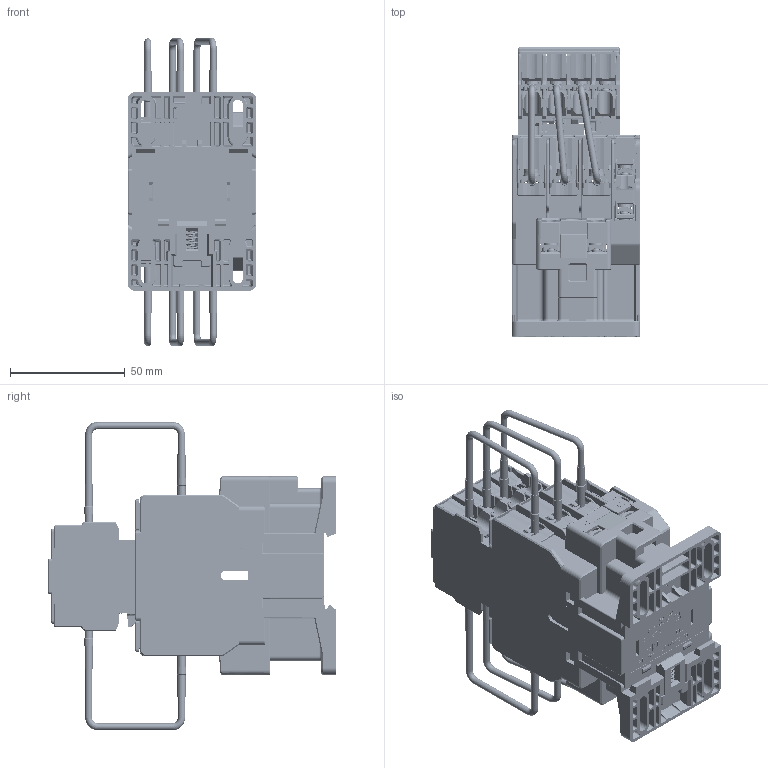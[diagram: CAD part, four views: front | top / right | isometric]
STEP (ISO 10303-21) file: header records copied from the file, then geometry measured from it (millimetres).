
FILE_DESCRIPTION((''),'2;1');
FILE_NAME('2400C1653_ASM','2025-03-04T11:01:12',('zyongj'),(''),'CREO PARAMETRIC BY PTC INC, 2020044','CREO PARAMETRIC BY PTC INC, 2020044','');
FILE_SCHEMA(('CONFIG_CONTROL_DESIGN','SHAPE_APPEARANCE_LAYERS_GROUPS'));
Products named in the file (165): 8ZTD-024-821; 8ZTD-596-071; 5ZTD-024-685_ASM; 8ZTD-557-576; 8ZTD-550-680-ZP1_AF3; 8ZTD-550-680-ZP2; 8ZTD-550-680_AF2_ASM; 5ZTD-550-595_AF1_ASM; 8ZTD-550-680-ZP1_AF7; 8ZTD-550-680_AF6_ASM; 5ZTD-550-595_AF5_ASM; 8ZTD-550-680-ZP1_AF6; 8ZTD-550-680_AF5_ASM; 5ZTD-550-595_AF4_ASM; 8ZTD-550-680-ZP1_AF2; 8ZTD-550-680_AF1_ASM; 5ZTD-550-595_AF0_ASM; 8ZTD-550-680-ZP1_AF5; 8ZTD-550-680_AF4_ASM; 5ZTD-550-595_AF3_ASM; 8ZTD-550-680-ZP1_AF4; 8ZTD-550-680_AF3_ASM; 5ZTD-550-595_AF2_ASM; 5ZTD-024-686-1-9_AF0_ASM; 8ZTD-022-609; 8ZTD-261-102; 8ZTD-282-1136_AF2; 5ZTD-022-403_AF0_ASM; 8ZTD-732-446; 8ZTD-516-249; 5ZTD-732-053_ASM; QBX_AF1; 8ZTJ-907-002; 8ZTJ-950-003_AF7; 5ZTJ-850-001_AF7_ASM; 8ZTJ-950-003_AF8; 5ZTJ-850-001_AF6_ASM; 8ZTJ-950-003_AF6; 5ZTJ-850-001_AF5_ASM; 8ZTJ-950-003_AF5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
Assembly tree (224 placements, depth 7):
  2400C1653_ASM
    2ZTD-400-175-1_6_AF0_ASM
      5ZTD-024-686-1-9_AF0_ASM
        5ZTD-024-685_ASM
          8ZTD-024-821
          8ZTD-596-071  x6
        5ZTD-550-595_AF1_ASM
          8ZTD-557-576
          8ZTD-550-680_AF2_ASM
            8ZTD-550-680-ZP1_AF3
            8ZTD-550-680-ZP2
        5ZTD-550-595_AF5_ASM
          8ZTD-557-576
          8ZTD-550-680_AF6_ASM
            8ZTD-550-680-ZP1_AF7
            8ZTD-550-680-ZP2
        5ZTD-550-595_AF4_ASM
          8ZTD-557-576
          8ZTD-550-680_AF5_ASM
            8ZTD-550-680-ZP1_AF6
            8ZTD-550-680-ZP2
        5ZTD-550-595_AF0_ASM
          8ZTD-557-576
          8ZTD-550-680_AF1_ASM
            8ZTD-550-680-ZP1_AF2
            8ZTD-550-680-ZP2
        5ZTD-550-595_AF3_ASM
          8ZTD-557-576
          8ZTD-550-680_AF4_ASM
            8ZTD-550-680-ZP1_AF5
            8ZTD-550-680-ZP2
        5ZTD-550-595_AF2_ASM
          8ZTD-557-576
          8ZTD-550-680_AF3_ASM
            8ZTD-550-680-ZP1_AF4
            8ZTD-550-680-ZP2
      5ZTD-022-404_AF0_ASM
        5ZTD-022-403_AF0_ASM
          8ZTD-022-609
          8ZTD-261-102
          8ZTD-282-1136_AF2
        5ZTD-520-779_AF0_ASM
          5ZTD-732-053_ASM
            8ZTD-732-446
            8ZTD-516-249  x2
          QBX_AF1
          5ZTJ-850-001_AF7_ASM
            8ZTJ-907-002
            8ZTJ-950-003_AF7
          5ZTJ-850-001_AF6_ASM
            8ZTJ-907-002
            8ZTJ-950-003_AF8
          5ZTJ-850-001_AF5_ASM
            8ZTJ-907-002
            8ZTJ-950-003_AF6
          5ZTJ-850-001_AF4_ASM
            8ZTJ-907-002
            8ZTJ-950-003_AF5
      5ZTJ-550-051_AF0_ASM
        8ZTJ-557-042_AF2
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Bounding box: 56 x 125.9 x 134.45 mm (x, y, z)
Volume: 153218.1 mm3; surface area: 215058.1 mm2
Topology: 163 solids, 207 shells, 18417 faces, 49034 edges, 31230 vertices
Faces by surface type: plane 12006, cylinder 4228, cone 828, sphere 493, torus 315, extrusion 278, bspline 269
Entity records: 676716 total; most frequent: CARTESIAN_POINT 143604, ORIENTED_EDGE 79976, DIRECTION 72800, PRESENTATION_STYLE_ASSIGNMENT 43973, STYLED_ITEM 43858, EDGE_CURVE 40007, CURVE_STYLE 37449, VECTOR 30604
